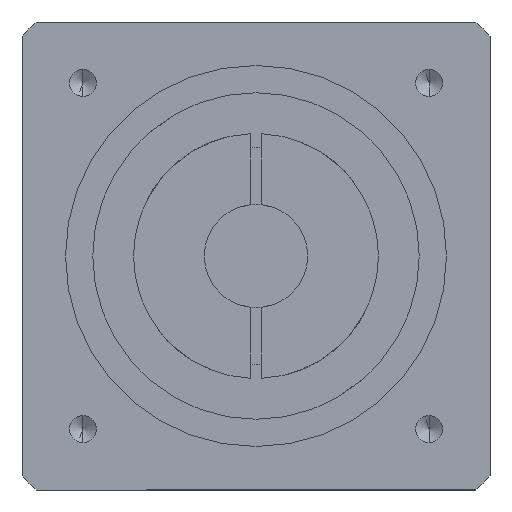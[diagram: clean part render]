
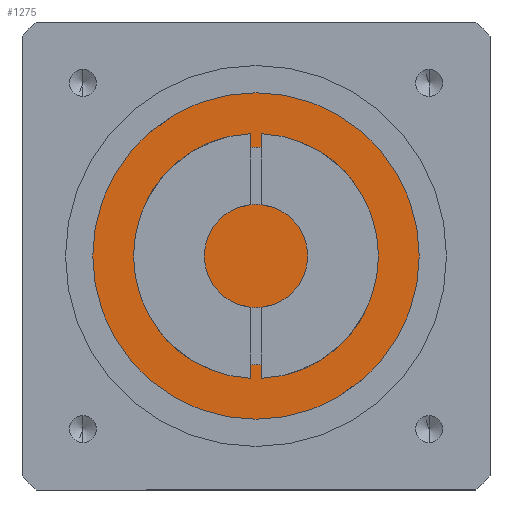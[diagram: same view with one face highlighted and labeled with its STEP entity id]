
A CAD part, front view. The second image highlights one B-rep face of the part: STEP entity #1275.
In plain terms, the highlighted planar face has unit normal (0, -1, 0).
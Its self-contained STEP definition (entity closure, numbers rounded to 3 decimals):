
#404 = EDGE_LOOP ( 'NONE', ( #3727, #3065 ) ) ;
#662 = CIRCLE ( 'NONE', #2942, 30. ) ;
#845 = CIRCLE ( 'NONE', #2998, 30. ) ;
#1275 = ADVANCED_FACE ( 'NONE', ( #2258 ), #3068, .T. ) ;
#1642 = AXIS2_PLACEMENT_3D ( 'NONE', #3130, #3138, #3128 ) ;
#1972 = VERTEX_POINT ( 'NONE', #4746 ) ;
#2107 = VERTEX_POINT ( 'NONE', #4881 ) ;
#2258 = FACE_OUTER_BOUND ( 'NONE', #404, .T. ) ;
#2513 = CARTESIAN_POINT ( 'NONE',  ( 0., -44., 0. ) ) ;
#2514 = DIRECTION ( 'NONE',  ( 0., -1., 0. ) ) ;
#2515 = DIRECTION ( 'NONE',  ( 0., 0., -1. ) ) ;
#2942 = AXIS2_PLACEMENT_3D ( 'NONE', #4331, #4332, #4333 ) ;
#2998 = AXIS2_PLACEMENT_3D ( 'NONE', #2513, #2514, #2515 ) ;
#3065 = ORIENTED_EDGE ( 'NONE', *, *, #4391, .T. ) ;
#3068 = PLANE ( 'NONE',  #1642 ) ;
#3128 = DIRECTION ( 'NONE',  ( 0., 0., -1. ) ) ;
#3130 = CARTESIAN_POINT ( 'NONE',  ( 0., -44., 0. ) ) ;
#3138 = DIRECTION ( 'NONE',  ( 0., -1., 0. ) ) ;
#3727 = ORIENTED_EDGE ( 'NONE', *, *, #4527, .T. ) ;
#4331 = CARTESIAN_POINT ( 'NONE',  ( 0., -44., 0. ) ) ;
#4332 = DIRECTION ( 'NONE',  ( 0., -1., 0. ) ) ;
#4333 = DIRECTION ( 'NONE',  ( 0., 0., -1. ) ) ;
#4391 = EDGE_CURVE ( 'NONE', #2107, #1972, #662, .T. ) ;
#4527 = EDGE_CURVE ( 'NONE', #1972, #2107, #845, .T. ) ;
#4746 = CARTESIAN_POINT ( 'NONE',  ( 0., -44., -30. ) ) ;
#4881 = CARTESIAN_POINT ( 'NONE',  ( 0., -44., 30. ) ) ;
